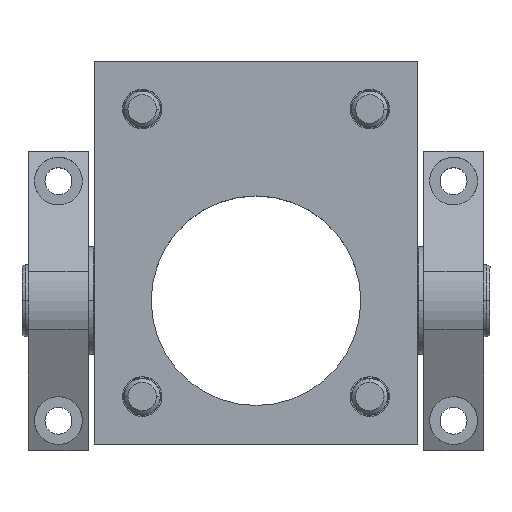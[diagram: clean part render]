
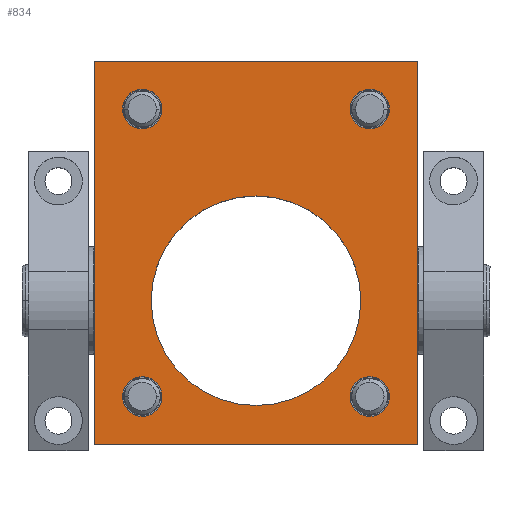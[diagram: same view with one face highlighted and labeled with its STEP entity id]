
A CAD part, top view. The second image highlights one B-rep face of the part: STEP entity #834.
In plain terms, the highlighted planar face has unit normal (0, 0, 1).
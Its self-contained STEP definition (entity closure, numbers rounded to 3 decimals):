
#3 = LINE ( 'NONE', #4992, #3579 ) ;
#14 = EDGE_CURVE ( 'NONE', #2724, #6285, #1521, .T. ) ;
#18 = VECTOR ( 'NONE', #1219, 1000. ) ;
#67 = ORIENTED_EDGE ( 'NONE', *, *, #1821, .T. ) ;
#83 = DIRECTION ( 'NONE',  ( 0., 1., 0. ) ) ;
#173 = EDGE_CURVE ( 'NONE', #6285, #2724, #5210, .T. ) ;
#262 = DIRECTION ( 'NONE',  ( 0., 0., -1. ) ) ;
#340 = VERTEX_POINT ( 'NONE', #6286 ) ;
#391 = CARTESIAN_POINT ( 'NONE',  ( 0., -17.5, -20. ) ) ;
#471 = DIRECTION ( 'NONE',  ( 0., -1., 0. ) ) ;
#472 = ORIENTED_EDGE ( 'NONE', *, *, #4285, .F. ) ;
#511 = CARTESIAN_POINT ( 'NONE',  ( 19., 35.3, -20. ) ) ;
#539 = DIRECTION ( 'NONE',  ( 0., 0., -1. ) ) ;
#580 = DIRECTION ( 'NONE',  ( 0., 0., -1. ) ) ;
#617 = AXIS2_PLACEMENT_3D ( 'NONE', #3465, #3366, #2536 ) ;
#691 = VERTEX_POINT ( 'NONE', #6180 ) ;
#697 = EDGE_CURVE ( 'NONE', #5471, #691, #5307, .T. ) ;
#726 = EDGE_CURVE ( 'NONE', #340, #4969, #5819, .T. ) ;
#757 = AXIS2_PLACEMENT_3D ( 'NONE', #5496, #2333, #5400 ) ;
#798 = EDGE_CURVE ( 'NONE', #3082, #4794, #5671, .T. ) ;
#812 = AXIS2_PLACEMENT_3D ( 'NONE', #3697, #5712, #3735 ) ;
#834 = ADVANCED_FACE ( 'NONE', ( #4461, #6478, #1846, #3963, #5978, #3860 ), #1449, .T. ) ;
#942 = ORIENTED_EDGE ( 'NONE', *, *, #14, .T. ) ;
#1021 = CIRCLE ( 'NONE', #812, 17.5 ) ;
#1029 = EDGE_LOOP ( 'NONE', ( #5384, #67 ) ) ;
#1205 = DIRECTION ( 'NONE',  ( 0., 1., 0. ) ) ;
#1219 = DIRECTION ( 'NONE',  ( -1., 0., 0. ) ) ;
#1250 = EDGE_CURVE ( 'NONE', #691, #6482, #2501, .T. ) ;
#1309 = AXIS2_PLACEMENT_3D ( 'NONE', #1560, #580, #83 ) ;
#1376 = AXIS2_PLACEMENT_3D ( 'NONE', #2230, #2788, #1205 ) ;
#1404 = CARTESIAN_POINT ( 'NONE',  ( 0., 17.5, -20. ) ) ;
#1449 = PLANE ( 'NONE',  #617 ) ;
#1472 = ORIENTED_EDGE ( 'NONE', *, *, #726, .T. ) ;
#1487 = EDGE_LOOP ( 'NONE', ( #4568, #2726 ) ) ;
#1490 = CIRCLE ( 'NONE', #757, 3.3 ) ;
#1508 = DIRECTION ( 'NONE',  ( 0., 1., 0. ) ) ;
#1521 = CIRCLE ( 'NONE', #5738, 3.3 ) ;
#1525 = EDGE_LOOP ( 'NONE', ( #4884, #5446 ) ) ;
#1560 = CARTESIAN_POINT ( 'NONE',  ( -19., -16., -20. ) ) ;
#1704 = CARTESIAN_POINT ( 'NONE',  ( 19., -12.7, -20. ) ) ;
#1717 = CARTESIAN_POINT ( 'NONE',  ( -27., -24., -20. ) ) ;
#1742 = VERTEX_POINT ( 'NONE', #511 ) ;
#1768 = DIRECTION ( 'NONE',  ( 0., 0., -1. ) ) ;
#1821 = EDGE_CURVE ( 'NONE', #5301, #1742, #4324, .T. ) ;
#1846 = FACE_BOUND ( 'NONE', #4071, .T. ) ;
#1888 = CARTESIAN_POINT ( 'NONE',  ( 27., -24., -20. ) ) ;
#2030 = CARTESIAN_POINT ( 'NONE',  ( 0., 0., -20. ) ) ;
#2045 = CIRCLE ( 'NONE', #1309, 3.3 ) ;
#2048 = AXIS2_PLACEMENT_3D ( 'NONE', #4063, #539, #2551 ) ;
#2063 = DIRECTION ( 'NONE',  ( 0., 1., 0. ) ) ;
#2154 = AXIS2_PLACEMENT_3D ( 'NONE', #2030, #3080, #2063 ) ;
#2230 = CARTESIAN_POINT ( 'NONE',  ( 19., 32., -20. ) ) ;
#2237 = VERTEX_POINT ( 'NONE', #4798 ) ;
#2265 = DIRECTION ( 'NONE',  ( 0., 1., 0. ) ) ;
#2327 = ORIENTED_EDGE ( 'NONE', *, *, #1250, .F. ) ;
#2333 = DIRECTION ( 'NONE',  ( 0., 0., -1. ) ) ;
#2501 = LINE ( 'NONE', #4612, #5535 ) ;
#2536 = DIRECTION ( 'NONE',  ( 0., -1., 0. ) ) ;
#2551 = DIRECTION ( 'NONE',  ( 0., 1., 0. ) ) ;
#2679 = CARTESIAN_POINT ( 'NONE',  ( 19., 28.7, -20. ) ) ;
#2724 = VERTEX_POINT ( 'NONE', #6216 ) ;
#2726 = ORIENTED_EDGE ( 'NONE', *, *, #6444, .T. ) ;
#2756 = CARTESIAN_POINT ( 'NONE',  ( 19., 32., -20. ) ) ;
#2770 = EDGE_CURVE ( 'NONE', #5046, #5001, #1021, .T. ) ;
#2788 = DIRECTION ( 'NONE',  ( 0., 0., -1. ) ) ;
#2994 = CARTESIAN_POINT ( 'NONE',  ( -19., 35.3, -20. ) ) ;
#3002 = CIRCLE ( 'NONE', #2154, 17.5 ) ;
#3080 = DIRECTION ( 'NONE',  ( 0., 0., -1. ) ) ;
#3082 = VERTEX_POINT ( 'NONE', #3287 ) ;
#3189 = EDGE_CURVE ( 'NONE', #1742, #5301, #6362, .T. ) ;
#3264 = VECTOR ( 'NONE', #6013, 1000. ) ;
#3287 = CARTESIAN_POINT ( 'NONE',  ( -19., -19.3, -20. ) ) ;
#3331 = DIRECTION ( 'NONE',  ( 0., 0., -1. ) ) ;
#3366 = DIRECTION ( 'NONE',  ( 0., 0., 1. ) ) ;
#3391 = CARTESIAN_POINT ( 'NONE',  ( -19., 32., -20. ) ) ;
#3465 = CARTESIAN_POINT ( 'NONE',  ( 0., 8., -20. ) ) ;
#3579 = VECTOR ( 'NONE', #471, 1000. ) ;
#3697 = CARTESIAN_POINT ( 'NONE',  ( 0., 0., -20. ) ) ;
#3724 = EDGE_LOOP ( 'NONE', ( #3845, #2327, #5844, #472 ) ) ;
#3735 = DIRECTION ( 'NONE',  ( 0., 1., 0. ) ) ;
#3762 = EDGE_CURVE ( 'NONE', #4969, #340, #1490, .T. ) ;
#3845 = ORIENTED_EDGE ( 'NONE', *, *, #4201, .F. ) ;
#3855 = DIRECTION ( 'NONE',  ( 0., 1., 0. ) ) ;
#3860 = FACE_OUTER_BOUND ( 'NONE', #3724, .T. ) ;
#3894 = DIRECTION ( 'NONE',  ( 0., 0., -1. ) ) ;
#3932 = LINE ( 'NONE', #4560, #3264 ) ;
#3963 = FACE_BOUND ( 'NONE', #1525, .T. ) ;
#4042 = CARTESIAN_POINT ( 'NONE',  ( -27., 40., -20. ) ) ;
#4063 = CARTESIAN_POINT ( 'NONE',  ( -19., 32., -20. ) ) ;
#4071 = EDGE_LOOP ( 'NONE', ( #6336, #1472 ) ) ;
#4132 = AXIS2_PLACEMENT_3D ( 'NONE', #2756, #262, #2265 ) ;
#4201 = EDGE_CURVE ( 'NONE', #6482, #2237, #3932, .T. ) ;
#4247 = EDGE_LOOP ( 'NONE', ( #4460, #942 ) ) ;
#4285 = EDGE_CURVE ( 'NONE', #2237, #5471, #3, .T. ) ;
#4324 = CIRCLE ( 'NONE', #1376, 3.3 ) ;
#4460 = ORIENTED_EDGE ( 'NONE', *, *, #173, .T. ) ;
#4461 = FACE_BOUND ( 'NONE', #1487, .T. ) ;
#4560 = CARTESIAN_POINT ( 'NONE',  ( 27., 40., -20. ) ) ;
#4568 = ORIENTED_EDGE ( 'NONE', *, *, #2770, .T. ) ;
#4582 = CARTESIAN_POINT ( 'NONE',  ( -19., -12.7, -20. ) ) ;
#4612 = CARTESIAN_POINT ( 'NONE',  ( -27., 40., -20. ) ) ;
#4794 = VERTEX_POINT ( 'NONE', #4582 ) ;
#4798 = CARTESIAN_POINT ( 'NONE',  ( 27., 40., -20. ) ) ;
#4884 = ORIENTED_EDGE ( 'NONE', *, *, #6503, .T. ) ;
#4889 = DIRECTION ( 'NONE',  ( 0., 1., 0. ) ) ;
#4969 = VERTEX_POINT ( 'NONE', #1704 ) ;
#4992 = CARTESIAN_POINT ( 'NONE',  ( 27., -24., -20. ) ) ;
#5001 = VERTEX_POINT ( 'NONE', #391 ) ;
#5046 = VERTEX_POINT ( 'NONE', #1404 ) ;
#5076 = AXIS2_PLACEMENT_3D ( 'NONE', #5378, #3331, #4889 ) ;
#5210 = CIRCLE ( 'NONE', #2048, 3.3 ) ;
#5301 = VERTEX_POINT ( 'NONE', #2679 ) ;
#5307 = LINE ( 'NONE', #1717, #18 ) ;
#5378 = CARTESIAN_POINT ( 'NONE',  ( 19., -16., -20. ) ) ;
#5384 = ORIENTED_EDGE ( 'NONE', *, *, #3189, .T. ) ;
#5400 = DIRECTION ( 'NONE',  ( 0., 1., 0. ) ) ;
#5446 = ORIENTED_EDGE ( 'NONE', *, *, #798, .T. ) ;
#5471 = VERTEX_POINT ( 'NONE', #1888 ) ;
#5496 = CARTESIAN_POINT ( 'NONE',  ( 19., -16., -20. ) ) ;
#5535 = VECTOR ( 'NONE', #1508, 1000. ) ;
#5671 = CIRCLE ( 'NONE', #6002, 3.3 ) ;
#5712 = DIRECTION ( 'NONE',  ( 0., 0., -1. ) ) ;
#5738 = AXIS2_PLACEMENT_3D ( 'NONE', #3391, #1768, #3855 ) ;
#5819 = CIRCLE ( 'NONE', #5076, 3.3 ) ;
#5844 = ORIENTED_EDGE ( 'NONE', *, *, #697, .F. ) ;
#5946 = DIRECTION ( 'NONE',  ( 0., 1., 0. ) ) ;
#5978 = FACE_BOUND ( 'NONE', #1029, .T. ) ;
#6002 = AXIS2_PLACEMENT_3D ( 'NONE', #6344, #3894, #5946 ) ;
#6013 = DIRECTION ( 'NONE',  ( 1., 0., 0. ) ) ;
#6180 = CARTESIAN_POINT ( 'NONE',  ( -27., -24., -20. ) ) ;
#6216 = CARTESIAN_POINT ( 'NONE',  ( -19., 28.7, -20. ) ) ;
#6285 = VERTEX_POINT ( 'NONE', #2994 ) ;
#6286 = CARTESIAN_POINT ( 'NONE',  ( 19., -19.3, -20. ) ) ;
#6336 = ORIENTED_EDGE ( 'NONE', *, *, #3762, .T. ) ;
#6344 = CARTESIAN_POINT ( 'NONE',  ( -19., -16., -20. ) ) ;
#6362 = CIRCLE ( 'NONE', #4132, 3.3 ) ;
#6444 = EDGE_CURVE ( 'NONE', #5001, #5046, #3002, .T. ) ;
#6478 = FACE_BOUND ( 'NONE', #4247, .T. ) ;
#6482 = VERTEX_POINT ( 'NONE', #4042 ) ;
#6503 = EDGE_CURVE ( 'NONE', #4794, #3082, #2045, .T. ) ;
